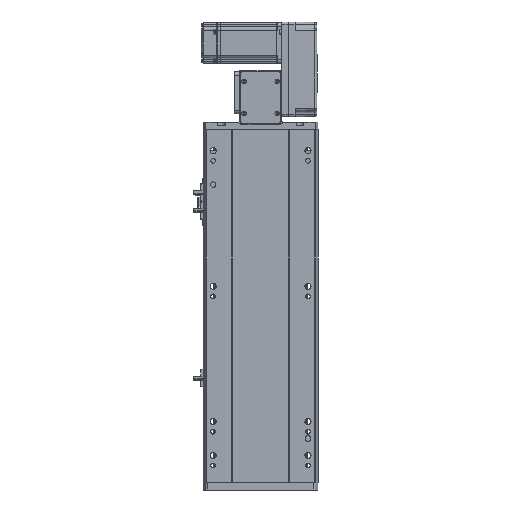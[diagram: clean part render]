
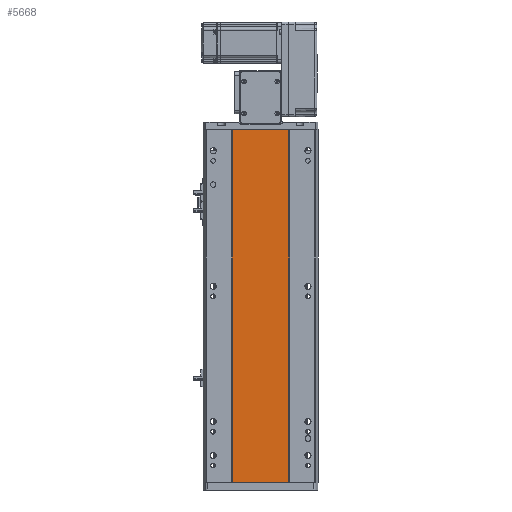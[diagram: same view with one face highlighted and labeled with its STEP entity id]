
A CAD part, front view. The second image highlights one B-rep face of the part: STEP entity #5668.
In plain terms, the highlighted planar face has unit normal (0, -1, 0).
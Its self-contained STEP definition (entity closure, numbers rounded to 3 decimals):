
#3239 = LINE ( 'NONE', #43875, #7650 ) ;
#3628 = FACE_OUTER_BOUND ( 'NONE', #53254, .T. ) ;
#3919 = ORIENTED_EDGE ( 'NONE', *, *, #10377, .T. ) ;
#4017 = ORIENTED_EDGE ( 'NONE', *, *, #43367, .F. ) ;
#4357 = DIRECTION ( 'NONE',  ( 0., 1., 0. ) ) ;
#4765 = VECTOR ( 'NONE', #18147, 1000. ) ;
#5668 = ADVANCED_FACE ( 'NONE', ( #3628 ), #46855, .F. ) ;
#7377 = VERTEX_POINT ( 'NONE', #47338 ) ;
#7650 = VECTOR ( 'NONE', #48720, 1000. ) ;
#9930 = CARTESIAN_POINT ( 'NONE',  ( 41.793, 0.998, 521. ) ) ;
#10377 = EDGE_CURVE ( 'NONE', #7377, #42783, #39605, .T. ) ;
#11639 = VERTEX_POINT ( 'NONE', #60910 ) ;
#11720 = CARTESIAN_POINT ( 'NONE',  ( -41.791, 1., 521. ) ) ;
#13515 = VECTOR ( 'NONE', #26953, 1000. ) ;
#18147 = DIRECTION ( 'NONE',  ( 0., 0., -1. ) ) ;
#18449 = LINE ( 'NONE', #21313, #49691 ) ;
#21313 = CARTESIAN_POINT ( 'NONE',  ( 41.793, 0.998, 521. ) ) ;
#22347 = EDGE_CURVE ( 'NONE', #42783, #11639, #3239, .T. ) ;
#24572 = ORIENTED_EDGE ( 'NONE', *, *, #22347, .T. ) ;
#26659 = DIRECTION ( 'NONE',  ( 0., 0., -1. ) ) ;
#26953 = DIRECTION ( 'NONE',  ( 1., 0., 0. ) ) ;
#28249 = LINE ( 'NONE', #50723, #13515 ) ;
#28277 = DIRECTION ( 'NONE',  ( -1., 0., 0. ) ) ;
#32712 = CARTESIAN_POINT ( 'NONE',  ( 0., 0.999, 521. ) ) ;
#39605 = LINE ( 'NONE', #11720, #4765 ) ;
#42783 = VERTEX_POINT ( 'NONE', #54702 ) ;
#43367 = EDGE_CURVE ( 'NONE', #7377, #48184, #28249, .T. ) ;
#43875 = CARTESIAN_POINT ( 'NONE',  ( 0., 0.999, 0. ) ) ;
#46001 = EDGE_CURVE ( 'NONE', #48184, #11639, #18449, .T. ) ;
#46855 = PLANE ( 'NONE',  #54665 ) ;
#47338 = CARTESIAN_POINT ( 'NONE',  ( -41.791, 1., 521. ) ) ;
#48184 = VERTEX_POINT ( 'NONE', #9930 ) ;
#48720 = DIRECTION ( 'NONE',  ( 1., 0., 0. ) ) ;
#49691 = VECTOR ( 'NONE', #26659, 1000. ) ;
#50723 = CARTESIAN_POINT ( 'NONE',  ( 0., 0.999, 521. ) ) ;
#53254 = EDGE_LOOP ( 'NONE', ( #24572, #56692, #4017, #3919 ) ) ;
#54665 = AXIS2_PLACEMENT_3D ( 'NONE', #32712, #4357, #28277 ) ;
#54702 = CARTESIAN_POINT ( 'NONE',  ( -41.791, 1., 0. ) ) ;
#56692 = ORIENTED_EDGE ( 'NONE', *, *, #46001, .F. ) ;
#60910 = CARTESIAN_POINT ( 'NONE',  ( 41.793, 0.998, 0. ) ) ;
